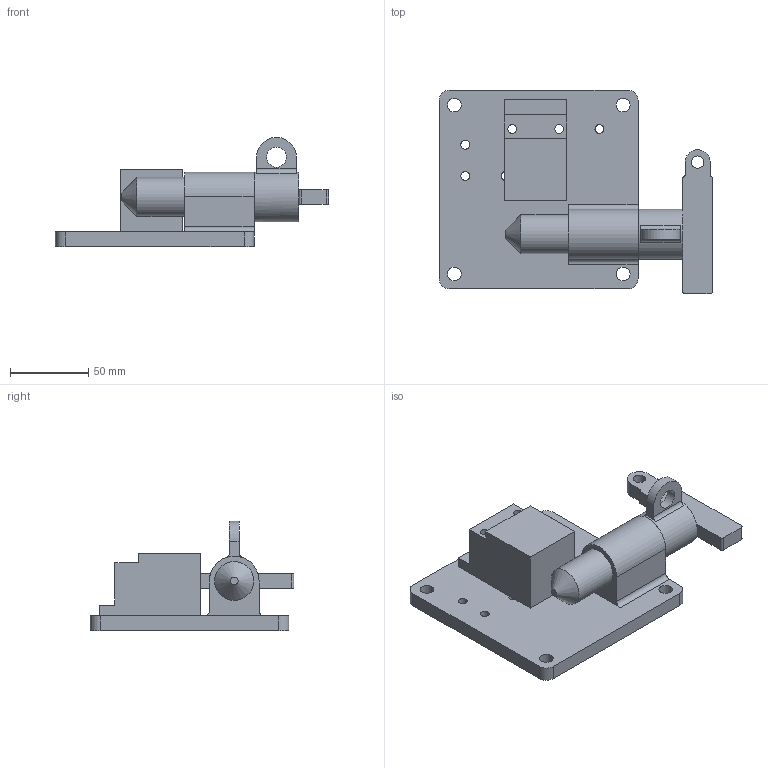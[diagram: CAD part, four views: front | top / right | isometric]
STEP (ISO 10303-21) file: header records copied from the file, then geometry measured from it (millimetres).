
FILE_DESCRIPTION(/* description */ (''),/* implementation_level */ '2;1');
FILE_NAME(/* name */ 'C:\Users\rcarver\Desktop\Tru-LOK pin\GM\With Switch\SP25Y075TR00200.stp',/* time_stamp */ '2016-06-24T13:28:49-04:00',/* author */ ('rcarver'),/* organization */ (''),/* preprocessor_version */ 'ST-DEVELOPER v16.5',/* originating_system */ 'Autodesk Inventor 2017',/* authorisation */ '');
FILE_SCHEMA (('AUTOMOTIVE_DESIGN { 1 0 10303 214 3 1 1 }'));
Length unit declared in the file: millimetre
Products named in the file (1): SP25Y075TR00200
Bounding box: 174.62 x 130.18 x 69.85 mm (x, y, z)
Volume: 341753.2 mm3; surface area: 70055.1 mm2
Topology: 3 solids, 3 shells, 69 faces, 192 edges, 131 vertices
Faces by surface type: plane 37, cylinder 31, cone 1
Full cylindrical faces by diameter (mm): 5.588 x2, 5.59 x6, 7.94 x1, 8.74 x4, 12.7 x1, 25 x1, 31.75 x1
Entity records: 2178 total; most frequent: DIRECTION 368, CARTESIAN_POINT 346, ORIENTED_EDGE 320, EDGE_CURVE 160, AXIS2_PLACEMENT_3D 138, EDGE_LOOP 116, VERTEX_POINT 116, LINE 92
